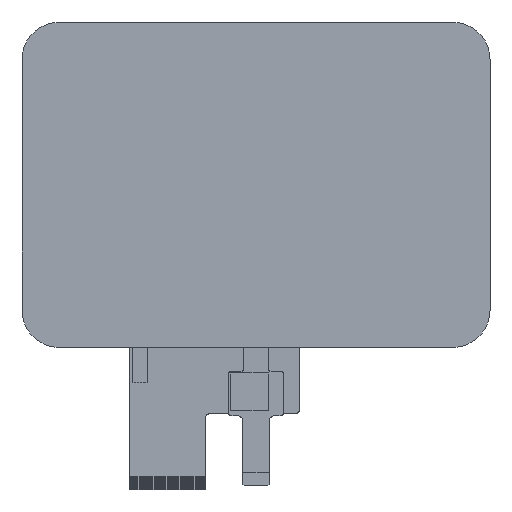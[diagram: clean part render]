
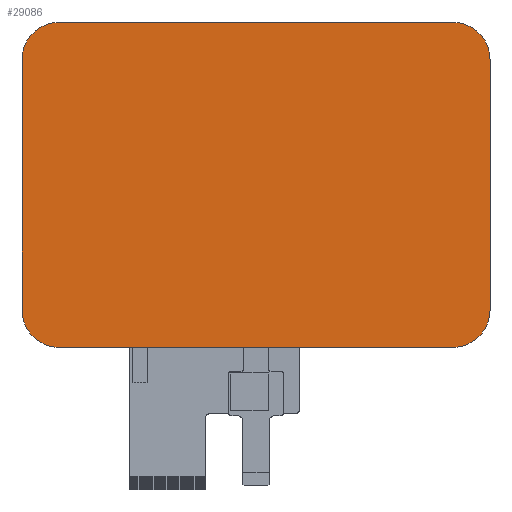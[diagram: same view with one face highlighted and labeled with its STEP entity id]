
A CAD part, top view. The second image highlights one B-rep face of the part: STEP entity #29086.
In plain terms, the highlighted planar face has unit normal (0, 0, 1).
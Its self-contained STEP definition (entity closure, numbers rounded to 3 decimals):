
#247 = AXIS2_PLACEMENT_3D ( 'NONE', #51149, #55824, #36999 ) ;
#336 = CARTESIAN_POINT ( 'NONE',  ( 65.051, 131.325, 1.58 ) ) ;
#1067 = CARTESIAN_POINT ( 'NONE',  ( 180.551, 131.325, 1.58 ) ) ;
#1247 = EDGE_CURVE ( 'NONE', #46534, #34864, #45816, .T. ) ;
#3878 = DIRECTION ( 'NONE',  ( 0., 0., -1. ) ) ;
#5378 = CARTESIAN_POINT ( 'NONE',  ( 190.551, 44.125, 1.58 ) ) ;
#6079 = VERTEX_POINT ( 'NONE', #10799 ) ;
#6774 = EDGE_CURVE ( 'NONE', #37891, #38913, #45373, .T. ) ;
#7062 = VECTOR ( 'NONE', #10338, 1000. ) ;
#7831 = DIRECTION ( 'NONE',  ( 0., -1., 0. ) ) ;
#9130 = ORIENTED_EDGE ( 'NONE', *, *, #51833, .F. ) ;
#9321 = DIRECTION ( 'NONE',  ( 0., 1., 0. ) ) ;
#9766 = EDGE_CURVE ( 'NONE', #34864, #57191, #18621, .T. ) ;
#10036 = VECTOR ( 'NONE', #53521, 1000. ) ;
#10338 = DIRECTION ( 'NONE',  ( -1., 0., 0. ) ) ;
#10799 = CARTESIAN_POINT ( 'NONE',  ( 180.551, 44.125, 1.58 ) ) ;
#12485 = CIRCLE ( 'NONE', #44925, 10. ) ;
#15701 = DIRECTION ( 'NONE',  ( 0., 0., -1. ) ) ;
#16746 = CIRCLE ( 'NONE', #23290, 10. ) ;
#17930 = DIRECTION ( 'NONE',  ( 0., 0., -1. ) ) ;
#18204 = DIRECTION ( 'NONE',  ( 0., -1., 0. ) ) ;
#18621 = LINE ( 'NONE', #49389, #38745 ) ;
#20312 = EDGE_CURVE ( 'NONE', #38913, #30137, #30431, .T. ) ;
#20398 = CARTESIAN_POINT ( 'NONE',  ( 180.551, 121.325, 1.58 ) ) ;
#20426 = CARTESIAN_POINT ( 'NONE',  ( 75.051, 54.125, 1.58 ) ) ;
#20811 = AXIS2_PLACEMENT_3D ( 'NONE', #20426, #51146, #38141 ) ;
#22536 = EDGE_CURVE ( 'NONE', #57191, #37891, #16746, .T. ) ;
#22820 = ORIENTED_EDGE ( 'NONE', *, *, #40032, .F. ) ;
#23290 = AXIS2_PLACEMENT_3D ( 'NONE', #57182, #17930, #18204 ) ;
#23639 = VECTOR ( 'NONE', #45627, 1000. ) ;
#23829 = ORIENTED_EDGE ( 'NONE', *, *, #34688, .F. ) ;
#23998 = ORIENTED_EDGE ( 'NONE', *, *, #22536, .F. ) ;
#25755 = ORIENTED_EDGE ( 'NONE', *, *, #1247, .F. ) ;
#28213 = LINE ( 'NONE', #37255, #23639 ) ;
#29086 = ADVANCED_FACE ( 'NONE', ( #55538 ), #29394, .F. ) ;
#29394 = PLANE ( 'NONE',  #247 ) ;
#30137 = VERTEX_POINT ( 'NONE', #52319 ) ;
#30431 = CIRCLE ( 'NONE', #54504, 10. ) ;
#32085 = VERTEX_POINT ( 'NONE', #54692 ) ;
#32137 = LINE ( 'NONE', #5378, #7062 ) ;
#34688 = EDGE_CURVE ( 'NONE', #32085, #6079, #12485, .T. ) ;
#34864 = VERTEX_POINT ( 'NONE', #44205 ) ;
#35267 = CARTESIAN_POINT ( 'NONE',  ( 75.051, 44.125, 1.58 ) ) ;
#36952 = CARTESIAN_POINT ( 'NONE',  ( 75.051, 131.325, 1.58 ) ) ;
#36999 = DIRECTION ( 'NONE',  ( 0., 1., 0. ) ) ;
#37255 = CARTESIAN_POINT ( 'NONE',  ( 190.551, 131.325, 1.58 ) ) ;
#37891 = VERTEX_POINT ( 'NONE', #36952 ) ;
#38141 = DIRECTION ( 'NONE',  ( 0., -1., 0. ) ) ;
#38745 = VECTOR ( 'NONE', #9321, 1000. ) ;
#38913 = VERTEX_POINT ( 'NONE', #1067 ) ;
#40032 = EDGE_CURVE ( 'NONE', #6079, #46534, #32137, .T. ) ;
#44205 = CARTESIAN_POINT ( 'NONE',  ( 65.051, 54.125, 1.58 ) ) ;
#44925 = AXIS2_PLACEMENT_3D ( 'NONE', #56754, #3878, #47698 ) ;
#45215 = EDGE_LOOP ( 'NONE', ( #23998, #46243, #25755, #22820, #23829, #9130, #51564, #49045 ) ) ;
#45373 = LINE ( 'NONE', #336, #10036 ) ;
#45627 = DIRECTION ( 'NONE',  ( 0., -1., 0. ) ) ;
#45816 = CIRCLE ( 'NONE', #20811, 10. ) ;
#46243 = ORIENTED_EDGE ( 'NONE', *, *, #9766, .F. ) ;
#46534 = VERTEX_POINT ( 'NONE', #35267 ) ;
#47698 = DIRECTION ( 'NONE',  ( 0., -1., 0. ) ) ;
#49045 = ORIENTED_EDGE ( 'NONE', *, *, #6774, .F. ) ;
#49389 = CARTESIAN_POINT ( 'NONE',  ( 65.051, 44.125, 1.58 ) ) ;
#51146 = DIRECTION ( 'NONE',  ( 0., 0., -1. ) ) ;
#51149 = CARTESIAN_POINT ( 'NONE',  ( 127.801, 87.725, 1.58 ) ) ;
#51564 = ORIENTED_EDGE ( 'NONE', *, *, #20312, .F. ) ;
#51833 = EDGE_CURVE ( 'NONE', #30137, #32085, #28213, .T. ) ;
#52142 = CARTESIAN_POINT ( 'NONE',  ( 65.051, 121.325, 1.58 ) ) ;
#52319 = CARTESIAN_POINT ( 'NONE',  ( 190.551, 121.325, 1.58 ) ) ;
#53521 = DIRECTION ( 'NONE',  ( 1., 0., 0. ) ) ;
#54504 = AXIS2_PLACEMENT_3D ( 'NONE', #20398, #15701, #7831 ) ;
#54692 = CARTESIAN_POINT ( 'NONE',  ( 190.551, 54.125, 1.58 ) ) ;
#55538 = FACE_OUTER_BOUND ( 'NONE', #45215, .T. ) ;
#55824 = DIRECTION ( 'NONE',  ( 0., 0., -1. ) ) ;
#56754 = CARTESIAN_POINT ( 'NONE',  ( 180.551, 54.125, 1.58 ) ) ;
#57182 = CARTESIAN_POINT ( 'NONE',  ( 75.051, 121.325, 1.58 ) ) ;
#57191 = VERTEX_POINT ( 'NONE', #52142 ) ;
